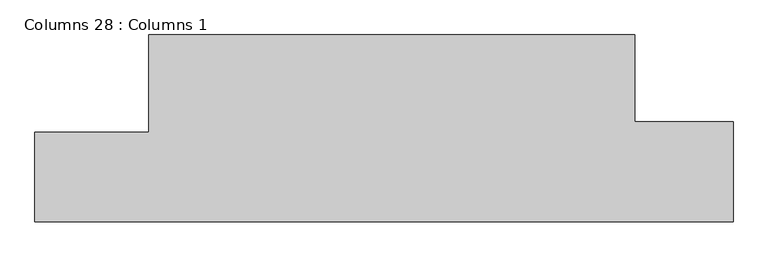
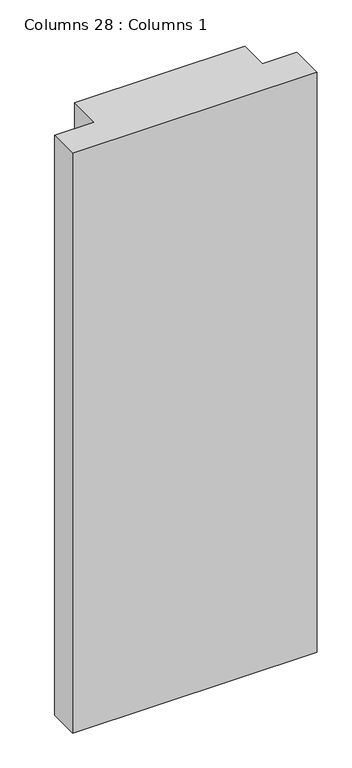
"""IFC4 building model written with IfcOpenShell, lengths in millimetres: column geometry, Columns 28 : Columns 1."""

from ifc_helpers import new_model, si_unit, origin, origin_with_axes, place, context, project, spatial, polyline, outline, extrude, source, transform, mapped, element, save


def columns_28_columns_1_034667f4(model_context):
    return source(origin(), model_context, "Body", "SweptSolid", [
        extrude(outline(polyline([(-43757.0148441, 117135.7591334), (-43757.0148441, 117323.3354847), (-43518.7491323, 117323.3354847), (-43518.7491323, 117526.5354847), (-42502.7491323, 117526.5354847), (-42502.7491323, 117345.3091334), (-42296.5148441, 117345.3091334), (-42296.5148441, 117135.7591334), (-43757.0148441, 117135.7591334)])), origin_with_axes(), (0.0, 0.0, 1.0), 3657.6),
    ])


if __name__ == "__main__":
    model = new_model("IFC4")
    model_context = context("Model", 3, world=origin())
    ifc_project = project(units=[si_unit("LENGTHUNIT", "METRE", prefix="MILLI")], contexts=[model_context])
    site = spatial("IfcSite", under=ifc_project)
    building = spatial("IfcBuilding", under=site)
    placement = place(None, origin())
    columns_28_columns_1_shape = columns_28_columns_1_034667f4(model_context)
    element("IfcColumn", 1, ObjectType="Columns 28 : Columns 1", at=placement, inside=building, context=model_context, shape_type="MappedRepresentation", body=[
        mapped(columns_28_columns_1_shape, transform((0.0, 0.0, 0.0), x_axis=(1.0, 0.0, 0.0), y_axis=(0.0, 1.0, 0.0), z_axis=(0.0, 0.0, 1.0))),
    ])
    save(model, "model.ifc")
